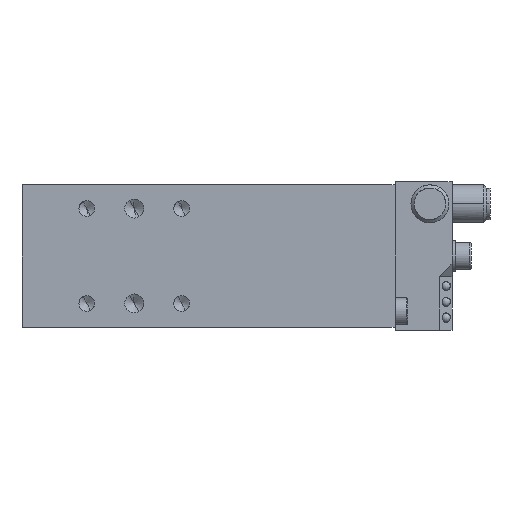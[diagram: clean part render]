
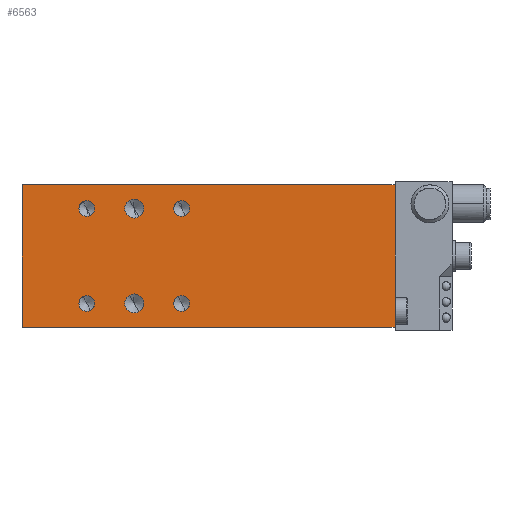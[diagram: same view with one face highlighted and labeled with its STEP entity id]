
A CAD part, front view. The second image highlights one B-rep face of the part: STEP entity #6563.
In plain terms, the highlighted planar face has unit normal (0, -1, 0).
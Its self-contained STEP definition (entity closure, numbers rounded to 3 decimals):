
#845=CARTESIAN_POINT('Vertex',(82.5,-195.,22.5)) ;
#848=CARTESIAN_POINT('Line Origine',(82.5,-195.,0.)) ;
#852=CARTESIAN_POINT('Vertex',(82.5,-195.,-22.5)) ;
#1602=CARTESIAN_POINT('Line Origine',(81.,-195.,-22.5)) ;
#1606=CARTESIAN_POINT('Vertex',(79.5,-195.,-22.5)) ;
#1641=CARTESIAN_POINT('Vertex',(79.5,-195.,22.5)) ;
#1644=CARTESIAN_POINT('Line Origine',(81.,-195.,22.5)) ;
#2699=CARTESIAN_POINT('Line Origine',(22.,-195.,-22.5)) ;
#2703=CARTESIAN_POINT('Vertex',(-35.5,-195.,-22.5)) ;
#3075=CARTESIAN_POINT('Vertex',(-35.5,-195.,22.5)) ;
#3078=CARTESIAN_POINT('Line Origine',(22.,-195.,22.5)) ;
#6244=CARTESIAN_POINT('Line Origine',(-35.5,-195.,0.)) ;
#6265=CARTESIAN_POINT('Vertex',(12.5,-195.,15.)) ;
#6268=CARTESIAN_POINT('Axis2P3D Location',(15.,-195.,15.)) ;
#6272=CARTESIAN_POINT('Vertex',(17.5,-195.,15.)) ;
#6288=CARTESIAN_POINT('Axis2P3D Location',(15.,-195.,15.)) ;
#6310=CARTESIAN_POINT('Vertex',(-17.5,-195.,15.)) ;
#6313=CARTESIAN_POINT('Axis2P3D Location',(-15.,-195.,15.)) ;
#6317=CARTESIAN_POINT('Vertex',(-12.5,-195.,15.)) ;
#6333=CARTESIAN_POINT('Axis2P3D Location',(-15.,-195.,15.)) ;
#6355=CARTESIAN_POINT('Vertex',(-3.,-195.,15.)) ;
#6358=CARTESIAN_POINT('Axis2P3D Location',(0.,-195.,15.)) ;
#6362=CARTESIAN_POINT('Vertex',(3.,-195.,15.)) ;
#6378=CARTESIAN_POINT('Axis2P3D Location',(0.,-195.,15.)) ;
#6400=CARTESIAN_POINT('Vertex',(12.5,-195.,-15.)) ;
#6403=CARTESIAN_POINT('Axis2P3D Location',(15.,-195.,-15.)) ;
#6407=CARTESIAN_POINT('Vertex',(17.5,-195.,-15.)) ;
#6423=CARTESIAN_POINT('Axis2P3D Location',(15.,-195.,-15.)) ;
#6445=CARTESIAN_POINT('Vertex',(-17.5,-195.,-15.)) ;
#6448=CARTESIAN_POINT('Axis2P3D Location',(-15.,-195.,-15.)) ;
#6452=CARTESIAN_POINT('Vertex',(-12.5,-195.,-15.)) ;
#6468=CARTESIAN_POINT('Axis2P3D Location',(-15.,-195.,-15.)) ;
#6490=CARTESIAN_POINT('Vertex',(-3.,-195.,-15.)) ;
#6493=CARTESIAN_POINT('Axis2P3D Location',(0.,-195.,-15.)) ;
#6497=CARTESIAN_POINT('Vertex',(3.,-195.,-15.)) ;
#6513=CARTESIAN_POINT('Axis2P3D Location',(0.,-195.,-15.)) ;
#6526=CARTESIAN_POINT('Axis2P3D Location',(2.,-195.,0.)) ;
#849=DIRECTION('Vector Direction',(0.,0.,1.)) ;
#1603=DIRECTION('Vector Direction',(1.,0.,0.)) ;
#1645=DIRECTION('Vector Direction',(-1.,0.,0.)) ;
#2700=DIRECTION('Vector Direction',(1.,0.,0.)) ;
#3079=DIRECTION('Vector Direction',(1.,0.,0.)) ;
#6245=DIRECTION('Vector Direction',(0.,0.,1.)) ;
#6269=DIRECTION('Axis2P3D Direction',(0.,-1.,-0.)) ;
#6289=DIRECTION('Axis2P3D Direction',(0.,-1.,-0.)) ;
#6314=DIRECTION('Axis2P3D Direction',(0.,-1.,-0.)) ;
#6334=DIRECTION('Axis2P3D Direction',(0.,-1.,-0.)) ;
#6359=DIRECTION('Axis2P3D Direction',(0.,-1.,-0.)) ;
#6379=DIRECTION('Axis2P3D Direction',(0.,-1.,-0.)) ;
#6404=DIRECTION('Axis2P3D Direction',(0.,-1.,-0.)) ;
#6424=DIRECTION('Axis2P3D Direction',(0.,-1.,-0.)) ;
#6449=DIRECTION('Axis2P3D Direction',(0.,-1.,-0.)) ;
#6469=DIRECTION('Axis2P3D Direction',(0.,-1.,-0.)) ;
#6494=DIRECTION('Axis2P3D Direction',(0.,-1.,-0.)) ;
#6514=DIRECTION('Axis2P3D Direction',(0.,-1.,-0.)) ;
#6527=DIRECTION('Axis2P3D Direction',(0.,1.,0.)) ;
#6528=DIRECTION('Axis2P3D XDirection',(0.,0.,1.)) ;
#6270=AXIS2_PLACEMENT_3D('Circle Axis2P3D',#6268,#6269,$) ;
#6290=AXIS2_PLACEMENT_3D('Circle Axis2P3D',#6288,#6289,$) ;
#6315=AXIS2_PLACEMENT_3D('Circle Axis2P3D',#6313,#6314,$) ;
#6335=AXIS2_PLACEMENT_3D('Circle Axis2P3D',#6333,#6334,$) ;
#6360=AXIS2_PLACEMENT_3D('Circle Axis2P3D',#6358,#6359,$) ;
#6380=AXIS2_PLACEMENT_3D('Circle Axis2P3D',#6378,#6379,$) ;
#6405=AXIS2_PLACEMENT_3D('Circle Axis2P3D',#6403,#6404,$) ;
#6425=AXIS2_PLACEMENT_3D('Circle Axis2P3D',#6423,#6424,$) ;
#6450=AXIS2_PLACEMENT_3D('Circle Axis2P3D',#6448,#6449,$) ;
#6470=AXIS2_PLACEMENT_3D('Circle Axis2P3D',#6468,#6469,$) ;
#6495=AXIS2_PLACEMENT_3D('Circle Axis2P3D',#6493,#6494,$) ;
#6515=AXIS2_PLACEMENT_3D('Circle Axis2P3D',#6513,#6514,$) ;
#6529=AXIS2_PLACEMENT_3D('Plane Axis2P3D',#6526,#6527,#6528) ;
#6532=ORIENTED_EDGE('',*,*,#3082,.F.) ;
#6533=ORIENTED_EDGE('',*,*,#6248,.T.) ;
#6534=ORIENTED_EDGE('',*,*,#2705,.T.) ;
#6535=ORIENTED_EDGE('',*,*,#1608,.F.) ;
#6536=ORIENTED_EDGE('',*,*,#854,.F.) ;
#6537=ORIENTED_EDGE('',*,*,#1648,.F.) ;
#6540=ORIENTED_EDGE('',*,*,#6517,.F.) ;
#6541=ORIENTED_EDGE('',*,*,#6499,.F.) ;
#6544=ORIENTED_EDGE('',*,*,#6382,.F.) ;
#6545=ORIENTED_EDGE('',*,*,#6364,.F.) ;
#6548=ORIENTED_EDGE('',*,*,#6337,.F.) ;
#6549=ORIENTED_EDGE('',*,*,#6319,.F.) ;
#6552=ORIENTED_EDGE('',*,*,#6292,.F.) ;
#6553=ORIENTED_EDGE('',*,*,#6274,.F.) ;
#6556=ORIENTED_EDGE('',*,*,#6454,.F.) ;
#6557=ORIENTED_EDGE('',*,*,#6472,.F.) ;
#6560=ORIENTED_EDGE('',*,*,#6409,.F.) ;
#6561=ORIENTED_EDGE('',*,*,#6427,.F.) ;
#6542=FACE_BOUND('',#6539,.T.) ;
#6546=FACE_BOUND('',#6543,.T.) ;
#6550=FACE_BOUND('',#6547,.T.) ;
#6554=FACE_BOUND('',#6551,.T.) ;
#6558=FACE_BOUND('',#6555,.T.) ;
#6562=FACE_BOUND('',#6559,.T.) ;
#850=VECTOR('Line Direction',#849,1.) ;
#1604=VECTOR('Line Direction',#1603,1.) ;
#1646=VECTOR('Line Direction',#1645,1.) ;
#2701=VECTOR('Line Direction',#2700,1.) ;
#3080=VECTOR('Line Direction',#3079,1.) ;
#6246=VECTOR('Line Direction',#6245,1.) ;
#6563=ADVANCED_FACE('PartBody',(#6538,#6542,#6546,#6550,#6554,#6558,#6562),#6530,.F.) ;
#6271=CIRCLE('generated circle',#6270,2.5) ;
#6291=CIRCLE('generated circle',#6290,2.5) ;
#6316=CIRCLE('generated circle',#6315,2.5) ;
#6336=CIRCLE('generated circle',#6335,2.5) ;
#6361=CIRCLE('generated circle',#6360,3.) ;
#6381=CIRCLE('generated circle',#6380,3.) ;
#6406=CIRCLE('generated circle',#6405,2.5) ;
#6426=CIRCLE('generated circle',#6425,2.5) ;
#6451=CIRCLE('generated circle',#6450,2.5) ;
#6471=CIRCLE('generated circle',#6470,2.5) ;
#6496=CIRCLE('generated circle',#6495,3.) ;
#6516=CIRCLE('generated circle',#6515,3.) ;
#854=EDGE_CURVE('',#846,#853,#851,.F.) ;
#1608=EDGE_CURVE('',#853,#1607,#1605,.F.) ;
#1648=EDGE_CURVE('',#1642,#846,#1647,.F.) ;
#2705=EDGE_CURVE('',#2704,#1607,#2702,.T.) ;
#3082=EDGE_CURVE('',#3076,#1642,#3081,.T.) ;
#6248=EDGE_CURVE('',#3076,#2704,#6247,.F.) ;
#6274=EDGE_CURVE('',#6266,#6273,#6271,.T.) ;
#6292=EDGE_CURVE('',#6273,#6266,#6291,.T.) ;
#6319=EDGE_CURVE('',#6311,#6318,#6316,.T.) ;
#6337=EDGE_CURVE('',#6318,#6311,#6336,.T.) ;
#6364=EDGE_CURVE('',#6356,#6363,#6361,.T.) ;
#6382=EDGE_CURVE('',#6363,#6356,#6381,.T.) ;
#6409=EDGE_CURVE('',#6401,#6408,#6406,.T.) ;
#6427=EDGE_CURVE('',#6408,#6401,#6426,.T.) ;
#6454=EDGE_CURVE('',#6446,#6453,#6451,.T.) ;
#6472=EDGE_CURVE('',#6453,#6446,#6471,.T.) ;
#6499=EDGE_CURVE('',#6491,#6498,#6496,.T.) ;
#6517=EDGE_CURVE('',#6498,#6491,#6516,.T.) ;
#6531=EDGE_LOOP('',(#6532,#6533,#6534,#6535,#6536,#6537)) ;
#6539=EDGE_LOOP('',(#6540,#6541)) ;
#6543=EDGE_LOOP('',(#6544,#6545)) ;
#6547=EDGE_LOOP('',(#6548,#6549)) ;
#6551=EDGE_LOOP('',(#6552,#6553)) ;
#6555=EDGE_LOOP('',(#6556,#6557)) ;
#6559=EDGE_LOOP('',(#6560,#6561)) ;
#6538=FACE_OUTER_BOUND('',#6531,.T.) ;
#851=LINE('Line',#848,#850) ;
#1605=LINE('Line',#1602,#1604) ;
#1647=LINE('Line',#1644,#1646) ;
#2702=LINE('Line',#2699,#2701) ;
#3081=LINE('Line',#3078,#3080) ;
#6247=LINE('Line',#6244,#6246) ;
#6530=PLANE('Plane',#6529) ;
#846=VERTEX_POINT('',#845) ;
#853=VERTEX_POINT('',#852) ;
#1607=VERTEX_POINT('',#1606) ;
#1642=VERTEX_POINT('',#1641) ;
#2704=VERTEX_POINT('',#2703) ;
#3076=VERTEX_POINT('',#3075) ;
#6266=VERTEX_POINT('',#6265) ;
#6273=VERTEX_POINT('',#6272) ;
#6311=VERTEX_POINT('',#6310) ;
#6318=VERTEX_POINT('',#6317) ;
#6356=VERTEX_POINT('',#6355) ;
#6363=VERTEX_POINT('',#6362) ;
#6401=VERTEX_POINT('',#6400) ;
#6408=VERTEX_POINT('',#6407) ;
#6446=VERTEX_POINT('',#6445) ;
#6453=VERTEX_POINT('',#6452) ;
#6491=VERTEX_POINT('',#6490) ;
#6498=VERTEX_POINT('',#6497) ;
